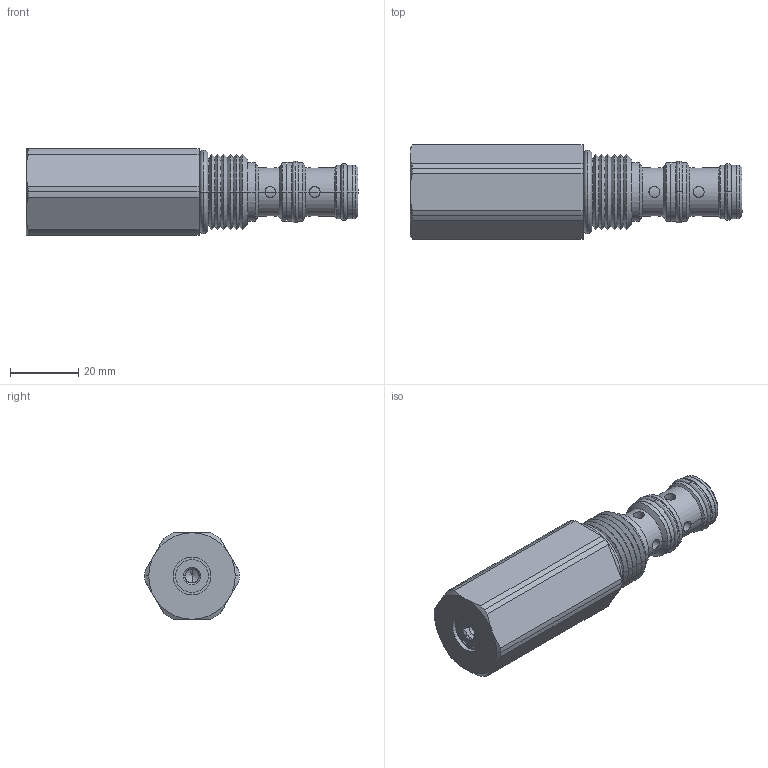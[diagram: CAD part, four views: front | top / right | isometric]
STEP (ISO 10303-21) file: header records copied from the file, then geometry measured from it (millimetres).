
FILE_DESCRIPTION((''),'2;1');
FILE_NAME('U:\Solid model CD\Solid model full\Mechanical\STEP\DFPWP0I-3D Full.stp','2008-07-29T09:23:45',('Dan'),(''),'Autodesk Inventor 9','Autodesk Inventor 9','');
FILE_SCHEMA(('AUTOMOTIVE_DESIGN { 1 0 10303 214 1 1 1 1 }'));
Length unit declared in the file: inch
Products named in the file (7): DFPWP0I-3D Full; DFPWP0I-3D Full1; DFPWP0I-3D Full2; DFPWP0I-3D Full3; DFPWP0I-3D Full4; DFPWP0I-3D Full5; DFPWP0I-3D Full6
Assembly tree (6 placements, depth 2):
  DFPWP0I-3D Full
    DFPWP0I-3D Full1
    DFPWP0I-3D Full2
    DFPWP0I-3D Full3
    DFPWP0I-3D Full4
    DFPWP0I-3D Full5
    DFPWP0I-3D Full6
Bounding box: 97.49 x 27.69 x 25.4 mm (x, y, z)
Volume: 38776.6 mm3; surface area: 10526.7 mm2
Topology: 6 solids, 6 shells, 167 faces, 372 edges, 225 vertices
Faces by surface type: cylinder 68, cone 50, plane 25, bspline 20, torus 4
Entity records: 5672 total; most frequent: CARTESIAN_POINT 1875, DIRECTION 784, ORIENTED_EDGE 740, EDGE_CURVE 370, AXIS2_PLACEMENT_3D 322, VERTEX_POINT 225, EDGE_LOOP 187, FACE_OUTER_BOUND 167
